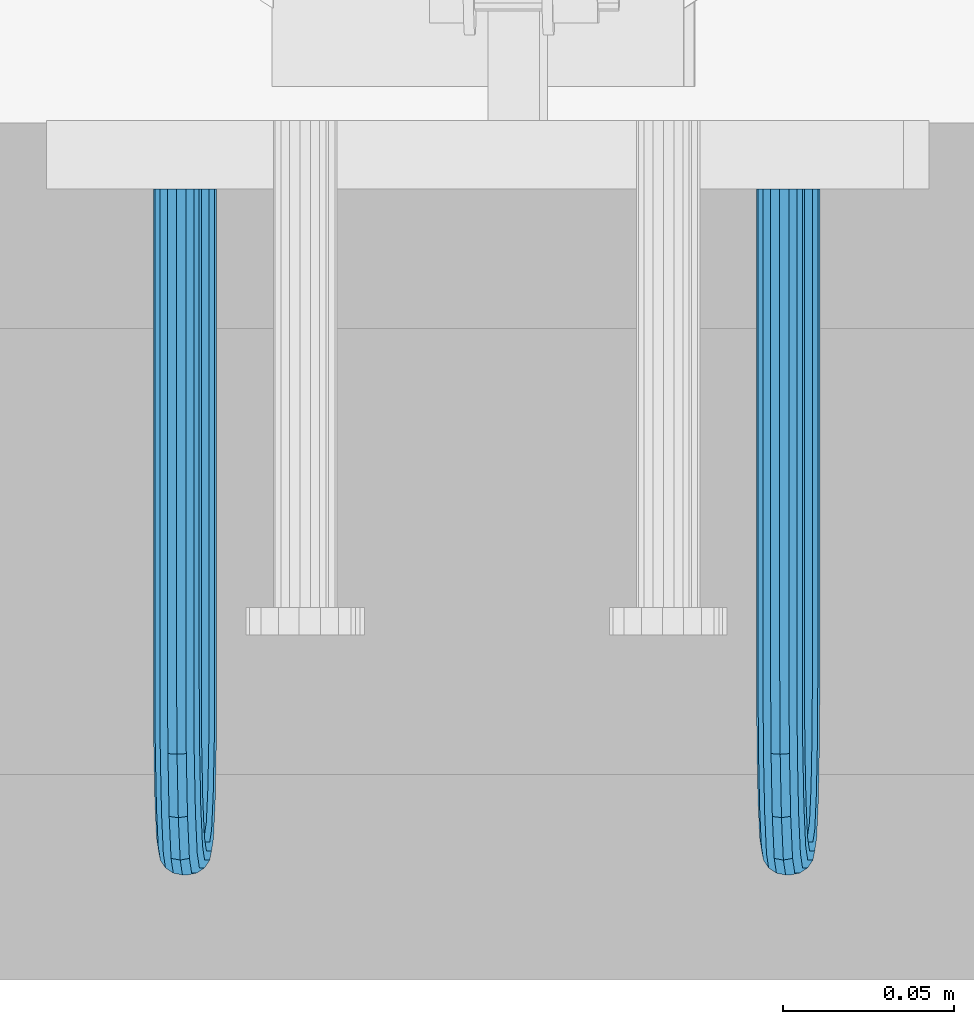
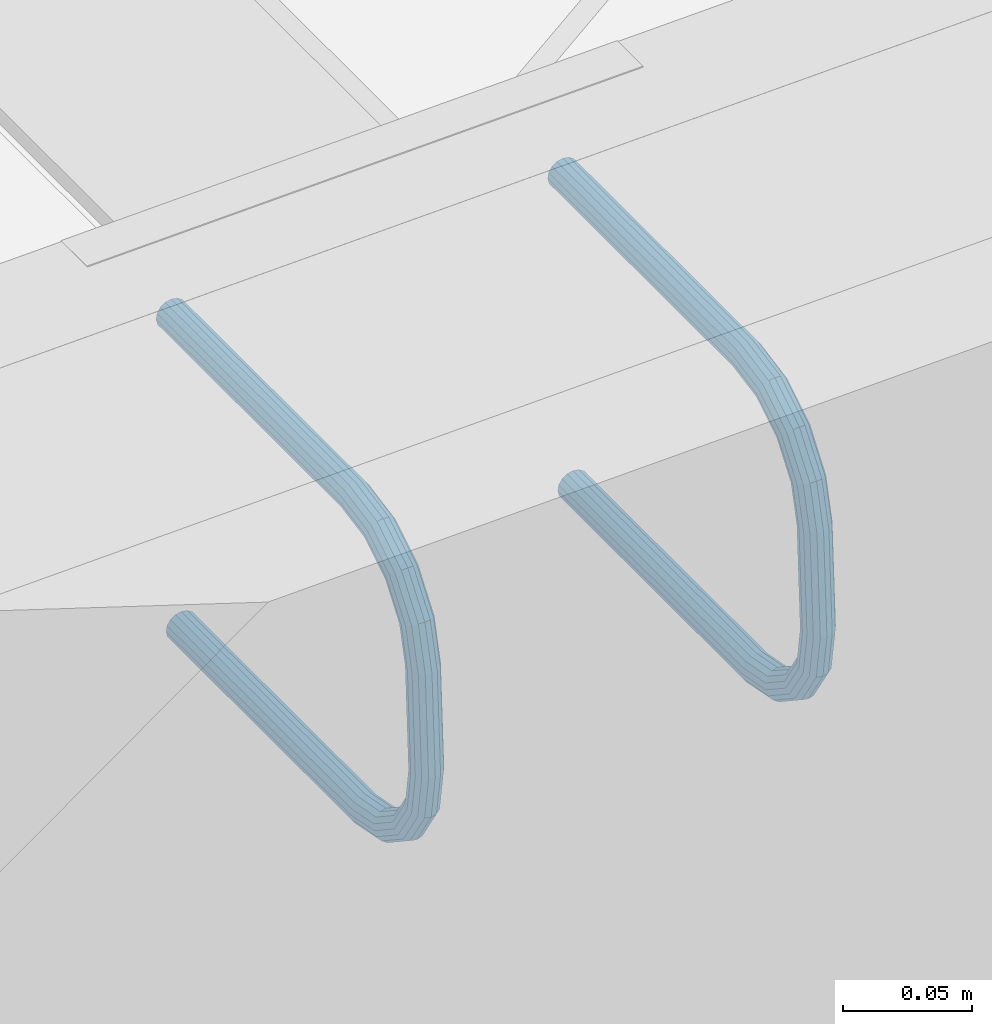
# One storey, part 80 of 476: 2 beams.
"""IFC2X3 building model written with IfcOpenShell, lengths in millimetres."""

from ifc_helpers import new_model, entity, si_unit, converted_unit, origin_with_axes, place, context, project, spatial, faceted_brep, material, element, save


model = new_model("IFC2X3")

# Units and contexts
model_context = context("Model", 3, precision=1e-09, world=origin_with_axes())
ifc_project = project(units=[si_unit("LENGTHUNIT", "METRE", prefix="MILLI"), si_unit("AREAUNIT", "SQUARE_METRE"), si_unit("VOLUMEUNIT", "CUBIC_METRE"), converted_unit("PLANEANGLEUNIT", "DEGREE", entity("IfcPlaneAngleMeasure", 0.01745329), si_unit("PLANEANGLEUNIT", "RADIAN"), dimensions=[0, 0, 0, 0, 0, 0, 0])], contexts=[model_context])

# Site, building, storey
site_placement = place(None, origin_with_axes())
site = spatial("IfcSite", under=ifc_project, at=site_placement, Name="mKR Teilneubau & Sanierung BA1 - Ostfildern", CompositionType="ELEMENT")
building_placement = place(site_placement, origin_with_axes())
building = spatial("IfcBuilding", under=site, at=building_placement, Name="Struktur 1", CompositionType="ELEMENT")
storey_placement = place(building_placement, origin_with_axes())
storey = spatial("IfcBuildingStorey", under=building, at=storey_placement, Name="Default Storey", CompositionType="ELEMENT", Elevation=0.0)

# Beams
ifc_material = material(Name="S235JR")
beam_1_placement = place(None, origin_with_axes())
element("IfcBeam", 1, at=beam_1_placement, inside=storey, material=ifc_material, Name="-", ObjectType="-", context=model_context, shape_type="Brep", body=[
    faceted_brep([(15151.628572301, -23549.67387897, 5302.090800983), (15153.852924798, -23549.67387897, 5303.675749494), (15156.51449208, -23549.67387897, 5304.288828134), (15159.208074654, -23549.67387897, 5303.83670124), (15161.523598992, -23549.67387897, 5302.388201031), (15163.108547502, -23549.67387897, 5300.163848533), (15163.721626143, -23549.67387897, 5297.502281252), (15163.269499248, -23549.67387897, 5294.808698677), (15161.820999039, -23549.67387897, 5292.49317434), (15159.596646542, -23549.67387897, 5290.908225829), (15156.93507926, -23549.67387897, 5290.295147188), (15154.241496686, -23549.67387897, 5290.747274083), (15151.925972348, -23549.67387897, 5292.195774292), (15150.341023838, -23549.67387897, 5294.42012679), (15149.727945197, -23549.67387897, 5297.081694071), (15150.180072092, -23549.67387897, 5299.775276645), (15149.735205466, -23549.67387897, 5440.679569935), (15147.419681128, -23549.67387897, 5442.128070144), (15145.834732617, -23549.67387897, 5444.352422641), (15145.221653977, -23549.67387897, 5447.013989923), (15145.673780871, -23549.67387897, 5449.707572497), (15147.122281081, -23549.67387897, 5452.023096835), (15149.346633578, -23549.67387897, 5453.608045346), (15152.008200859, -23549.67387897, 5454.221123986), (15154.701783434, -23549.67387897, 5453.768997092), (15157.017307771, -23549.67387897, 5452.320496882), (15158.602256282, -23549.67387897, 5450.096144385), (15159.215334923, -23549.67387897, 5447.434577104), (15158.763208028, -23549.67387897, 5444.740994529), (15157.314707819, -23549.67387897, 5442.425470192), (15155.090355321, -23549.67387897, 5440.840521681), (15152.42878804, -23549.67387897, 5440.22744304), (15151.628572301, -23692.67387897, 5302.090800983), (15153.852924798, -23692.67387897, 5303.675749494), (15150.180072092, -23692.67387897, 5299.775276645), (15149.727945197, -23692.67387897, 5297.081694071), (15150.341023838, -23692.67387897, 5294.42012679), (15151.925972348, -23692.67387897, 5292.195774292), (15154.241496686, -23692.67387897, 5290.747274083), (15156.93507926, -23692.67387897, 5290.295147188), (15159.596646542, -23692.67387897, 5290.908225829), (15161.820999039, -23692.67387897, 5292.49317434), (15163.269499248, -23692.67387897, 5294.808698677), (15163.721626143, -23692.67387897, 5297.502281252), (15163.108547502, -23692.67387897, 5300.163848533), (15161.523598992, -23692.67387897, 5302.388201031), (15159.208074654, -23692.67387897, 5303.83670124), (15156.51449208, -23692.67387897, 5304.288828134), (15151.525551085, -23709.913864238, 5305.518499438), (15153.753373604, -23709.333176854, 5306.987994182), (15150.071857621, -23710.782924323, 5303.375763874), (15149.613604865, -23711.808050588, 5300.885999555), (15150.220557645, -23712.833176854, 5298.428250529), (15151.800312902, -23713.702236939, 5296.376686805), (15154.112367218, -23714.282924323, 5295.043640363), (15156.804731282, -23714.486834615, 5294.63205544), (15159.467517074, -23714.282924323, 5295.204592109), (15161.695339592, -23713.702236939, 5296.674086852), (15163.149033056, -23712.833176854, 5298.816822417), (15163.607285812, -23711.808050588, 5301.306586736), (15163.000333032, -23710.782924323, 5303.764335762), (15161.420577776, -23709.913864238, 5305.815899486), (15159.10852346, -23709.333176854, 5307.148945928), (15156.416159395, -23709.129266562, 5307.560530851), (15151.232171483, -23724.52921803, 5315.279758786), (15153.469875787, -23723.456247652, 5316.420469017), (15149.763688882, -23726.135031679, 5313.629084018), (15149.28799115, -23728.02921803, 5311.719744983), (15149.877498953, -23729.92340438, 5309.842421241), (15151.442465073, -23731.52921803, 5308.282918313), (15153.744637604, -23732.602188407, 5307.278656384), (15156.433531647, -23732.978965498, 5306.982525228), (15159.09978746, -23732.602188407, 5307.43960813), (15161.337491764, -23731.52921803, 5308.580318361), (15162.805974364, -23729.92340438, 5310.230993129), (15163.281672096, -23728.02921803, 5312.140332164), (15162.692164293, -23726.135031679, 5314.017655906), (15161.127198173, -23724.52921803, 5315.577158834), (15158.825025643, -23723.456247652, 5316.581420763), (15156.136131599, -23723.079470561, 5316.877551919), (15150.793097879, -23734.294885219, 5329.888515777), (15153.045591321, -23732.892981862, 5330.537165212), (15149.302481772, -23736.392981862, 5328.974262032), (15148.800675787, -23738.867855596, 5327.933590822), (15149.364075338, -23741.34272933, 5326.924934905), (15150.90690795, -23743.440825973, 5326.101853), (15153.194291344, -23744.84272933, 5325.589651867), (15155.877992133, -23745.335012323, 5325.466309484), (15158.5494412, -23744.84272933, 5325.750603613), (15160.801934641, -23743.440825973, 5326.399253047), (15162.292550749, -23741.34272933, 5327.313506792), (15162.794356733, -23738.867855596, 5328.354178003), (15162.230957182, -23736.392981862, 5329.36283392), (15160.68812457, -23734.294885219, 5330.185915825), (15158.400741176, -23732.892981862, 5330.698116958), (15155.717040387, -23732.400698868, 5330.82145934), (15150.275175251, -23737.724131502, 5347.120719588), (15152.545113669, -23736.206722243, 5347.188943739), (15148.758450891, -23739.995094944, 5347.075133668), (15148.225848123, -23742.67387897, 5347.059126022), (15148.758450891, -23745.352662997, 5347.075133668), (15150.275175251, -23747.623626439, 5347.120719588), (15152.545113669, -23749.141035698, 5347.188943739), (15155.222688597, -23749.67387897, 5347.269419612), (15157.900263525, -23749.141035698, 5347.349895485), (15160.170201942, -23747.623626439, 5347.418119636), (15161.686926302, -23745.352662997, 5347.463705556), (15162.21952907, -23742.67387897, 5347.479713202), (15161.686926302, -23739.995094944, 5347.463705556), (15160.170201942, -23737.724131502, 5347.418119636), (15157.900263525, -23736.206722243, 5347.349895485), (15155.222688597, -23735.67387897, 5347.269419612), (15148.773078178, -23737.724131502, 5397.098151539), (15151.043016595, -23736.206722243, 5397.16637569), (15147.256353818, -23739.995094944, 5397.052565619), (15146.72375105, -23742.67387897, 5397.036557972), (15147.256353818, -23745.352662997, 5397.052565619), (15148.773078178, -23747.623626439, 5397.098151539), (15151.043016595, -23749.141035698, 5397.16637569), (15153.720591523, -23749.67387897, 5397.246851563), (15156.398166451, -23749.141035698, 5397.327327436), (15158.668104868, -23747.623626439, 5397.395551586), (15160.184829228, -23745.352662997, 5397.441137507), (15160.717431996, -23742.67387897, 5397.457145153), (15160.184829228, -23739.995094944, 5397.441137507), (15158.668104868, -23737.724131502, 5397.395551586), (15156.398166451, -23736.206722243, 5397.327327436), (15153.720591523, -23735.67387897, 5397.246851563), (15148.255155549, -23734.294885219, 5414.33035535), (15150.542538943, -23732.892981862, 5413.818154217), (15146.712322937, -23736.392981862, 5415.153437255), (15146.148923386, -23738.867855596, 5416.162093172), (15146.650729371, -23741.34272933, 5417.202764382), (15148.141345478, -23743.440825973, 5418.117018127), (15150.393838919, -23744.84272933, 5418.765667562), (15153.065287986, -23745.335012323, 5419.04996169), (15155.748988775, -23744.84272933, 5418.926619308), (15158.036372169, -23743.440825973, 5418.414418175), (15159.579204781, -23741.34272933, 5417.59133627), (15160.142604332, -23738.867855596, 5416.582680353), (15159.640798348, -23736.392981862, 5415.542009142), (15158.15018224, -23734.294885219, 5414.627755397), (15155.897688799, -23732.892981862, 5413.979105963), (15153.226239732, -23732.400698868, 5413.694811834), (15147.816081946, -23724.52921803, 5428.939112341), (15150.118254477, -23723.456247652, 5427.934850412), (15146.251115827, -23726.135031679, 5430.498615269), (15145.661608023, -23728.02921803, 5432.375939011), (15146.137305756, -23729.92340438, 5434.285278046), (15147.605788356, -23731.52921803, 5435.935952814), (15149.84349266, -23732.602188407, 5437.076663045), (15152.509748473, -23732.978965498, 5437.533745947), (15155.198642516, -23732.602188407, 5437.237614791), (15157.500815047, -23731.52921803, 5436.233352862), (15159.065781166, -23729.92340438, 5434.673849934), (15159.65528897, -23728.02921803, 5432.796526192), (15159.179591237, -23726.135031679, 5430.887187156), (15157.711108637, -23724.52921803, 5429.236512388), (15155.473404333, -23723.456247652, 5428.095802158), (15152.80714852, -23723.079470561, 5427.638719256), (15147.522702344, -23709.913864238, 5438.700371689), (15149.83475666, -23709.333176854, 5437.367325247), (15145.942947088, -23710.782924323, 5440.751935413), (15145.335994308, -23711.808050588, 5443.209684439), (15145.794247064, -23712.833176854, 5445.699448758), (15147.247940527, -23713.702236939, 5447.842184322), (15149.475763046, -23714.282924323, 5449.311679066), (15152.138548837, -23714.486834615, 5449.884215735), (15154.830912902, -23714.282924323, 5449.472630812), (15157.142967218, -23713.702236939, 5448.13958437), (15158.722722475, -23712.833176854, 5446.088020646), (15159.329675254, -23711.808050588, 5443.63027162), (15158.871422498, -23710.782924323, 5441.140507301), (15157.417729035, -23709.913864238, 5438.997771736), (15155.189906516, -23709.333176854, 5437.528276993), (15152.527120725, -23709.129266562, 5436.955740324), (15147.419681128, -23692.67387897, 5442.128070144), (15149.735205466, -23692.67387897, 5440.679569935), (15145.834732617, -23692.67387897, 5444.352422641), (15145.221653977, -23692.67387897, 5447.013989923), (15145.673780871, -23692.67387897, 5449.707572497), (15147.122281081, -23692.67387897, 5452.023096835), (15149.346633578, -23692.67387897, 5453.608045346), (15152.008200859, -23692.67387897, 5454.221123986), (15154.701783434, -23692.67387897, 5453.768997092), (15157.017307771, -23692.67387897, 5452.320496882), (15158.602256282, -23692.67387897, 5450.096144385), (15159.215334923, -23692.67387897, 5447.434577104), (15158.763208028, -23692.67387897, 5444.740994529), (15157.314707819, -23692.67387897, 5442.425470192), (15155.090355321, -23692.67387897, 5440.840521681), (15152.42878804, -23692.67387897, 5440.22744304)], [[[0, 1, 2, 3, 4, 5, 6, 7, 8, 9, 10, 11, 12, 13, 14, 15]], [[16, 17, 18, 19, 20, 21, 22, 23, 24, 25, 26, 27, 28, 29, 30, 31]], [[1, 0, 32, 33]], [[0, 15, 34, 32]], [[15, 14, 35, 34]], [[14, 13, 36, 35]], [[13, 12, 37, 36]], [[12, 11, 38, 37]], [[11, 10, 39, 38]], [[10, 9, 40, 39]], [[9, 8, 41, 40]], [[8, 7, 42, 41]], [[7, 6, 43, 42]], [[6, 5, 44, 43]], [[5, 4, 45, 44]], [[4, 3, 46, 45]], [[3, 2, 47, 46]], [[2, 1, 33, 47]], [[33, 32, 48, 49]], [[32, 34, 50, 48]], [[34, 35, 51, 50]], [[35, 36, 52, 51]], [[36, 37, 53, 52]], [[37, 38, 54, 53]], [[38, 39, 55, 54]], [[39, 40, 56, 55]], [[40, 41, 57, 56]], [[41, 42, 58, 57]], [[42, 43, 59, 58]], [[43, 44, 60, 59]], [[44, 45, 61, 60]], [[45, 46, 62, 61]], [[46, 47, 63, 62]], [[47, 33, 49, 63]], [[49, 48, 64, 65]], [[48, 50, 66, 64]], [[50, 51, 67, 66]], [[51, 52, 68, 67]], [[52, 53, 69, 68]], [[53, 54, 70, 69]], [[54, 55, 71, 70]], [[55, 56, 72, 71]], [[56, 57, 73, 72]], [[57, 58, 74, 73]], [[58, 59, 75, 74]], [[59, 60, 76, 75]], [[60, 61, 77, 76]], [[61, 62, 78, 77]], [[62, 63, 79, 78]], [[63, 49, 65, 79]], [[65, 64, 80, 81]], [[64, 66, 82, 80]], [[66, 67, 83, 82]], [[67, 68, 84, 83]], [[68, 69, 85, 84]], [[69, 70, 86, 85]], [[70, 71, 87, 86]], [[71, 72, 88, 87]], [[72, 73, 89, 88]], [[73, 74, 90, 89]], [[74, 75, 91, 90]], [[75, 76, 92, 91]], [[76, 77, 93, 92]], [[77, 78, 94, 93]], [[78, 79, 95, 94]], [[79, 65, 81, 95]], [[81, 80, 96, 97]], [[80, 82, 98, 96]], [[82, 83, 99, 98]], [[83, 84, 100, 99]], [[84, 85, 101, 100]], [[85, 86, 102, 101]], [[86, 87, 103, 102]], [[87, 88, 104, 103]], [[88, 89, 105, 104]], [[89, 90, 106, 105]], [[90, 91, 107, 106]], [[91, 92, 108, 107]], [[92, 93, 109, 108]], [[93, 94, 110, 109]], [[94, 95, 111, 110]], [[95, 81, 97, 111]], [[97, 96, 112, 113]], [[96, 98, 114, 112]], [[98, 99, 115, 114]], [[99, 100, 116, 115]], [[100, 101, 117, 116]], [[101, 102, 118, 117]], [[102, 103, 119, 118]], [[103, 104, 120, 119]], [[104, 105, 121, 120]], [[105, 106, 122, 121]], [[106, 107, 123, 122]], [[107, 108, 124, 123]], [[108, 109, 125, 124]], [[109, 110, 126, 125]], [[110, 111, 127, 126]], [[111, 97, 113, 127]], [[113, 112, 128, 129]], [[112, 114, 130, 128]], [[114, 115, 131, 130]], [[115, 116, 132, 131]], [[116, 117, 133, 132]], [[117, 118, 134, 133]], [[118, 119, 135, 134]], [[119, 120, 136, 135]], [[120, 121, 137, 136]], [[121, 122, 138, 137]], [[122, 123, 139, 138]], [[123, 124, 140, 139]], [[124, 125, 141, 140]], [[125, 126, 142, 141]], [[126, 127, 143, 142]], [[127, 113, 129, 143]], [[129, 128, 144, 145]], [[128, 130, 146, 144]], [[130, 131, 147, 146]], [[131, 132, 148, 147]], [[132, 133, 149, 148]], [[133, 134, 150, 149]], [[134, 135, 151, 150]], [[135, 136, 152, 151]], [[136, 137, 153, 152]], [[137, 138, 154, 153]], [[138, 139, 155, 154]], [[139, 140, 156, 155]], [[140, 141, 157, 156]], [[141, 142, 158, 157]], [[142, 143, 159, 158]], [[143, 129, 145, 159]], [[145, 144, 160, 161]], [[144, 146, 162, 160]], [[146, 147, 163, 162]], [[147, 148, 164, 163]], [[148, 149, 165, 164]], [[149, 150, 166, 165]], [[150, 151, 167, 166]], [[151, 152, 168, 167]], [[152, 153, 169, 168]], [[153, 154, 170, 169]], [[154, 155, 171, 170]], [[155, 156, 172, 171]], [[156, 157, 173, 172]], [[157, 158, 174, 173]], [[158, 159, 175, 174]], [[159, 145, 161, 175]], [[161, 160, 176, 177]], [[160, 162, 178, 176]], [[162, 163, 179, 178]], [[163, 164, 180, 179]], [[164, 165, 181, 180]], [[165, 166, 182, 181]], [[166, 167, 183, 182]], [[167, 168, 184, 183]], [[168, 169, 185, 184]], [[169, 170, 186, 185]], [[170, 171, 187, 186]], [[171, 172, 188, 187]], [[172, 173, 189, 188]], [[173, 174, 190, 189]], [[174, 175, 191, 190]], [[175, 161, 177, 191]], [[177, 176, 17, 16]], [[176, 178, 18, 17]], [[178, 179, 19, 18]], [[179, 180, 20, 19]], [[180, 181, 21, 20]], [[181, 182, 22, 21]], [[182, 183, 23, 22]], [[183, 184, 24, 23]], [[184, 185, 25, 24]], [[185, 186, 26, 25]], [[186, 187, 27, 26]], [[187, 188, 28, 27]], [[188, 189, 29, 28]], [[189, 190, 30, 29]], [[190, 191, 31, 30]], [[191, 177, 16, 31]]]),
])
beam_2_placement = place(None, origin_with_axes())
element("IfcBeam", 2, at=beam_2_placement, inside=storey, material=ifc_material, Name="-", ObjectType="-", context=model_context, shape_type="Brep", body=[
    faceted_brep([(14975.708011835, -23549.67387897, 5296.803419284), (14977.932364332, -23549.67387897, 5298.388367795), (14980.593931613, -23549.67387897, 5299.001446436), (14983.287514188, -23549.67387897, 5298.549319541), (14985.603038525, -23549.67387897, 5297.100819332), (14987.187987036, -23549.67387897, 5294.876466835), (14987.801065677, -23549.67387897, 5292.214899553), (14987.348938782, -23549.67387897, 5289.521316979), (14985.900438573, -23549.67387897, 5287.205792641), (14983.676086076, -23549.67387897, 5285.62084413), (14981.014518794, -23549.67387897, 5285.00776549), (14978.32093622, -23549.67387897, 5285.459892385), (14976.005411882, -23549.67387897, 5286.908392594), (14974.420463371, -23549.67387897, 5289.132745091), (14973.807384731, -23549.67387897, 5291.794312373), (14974.259511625, -23549.67387897, 5294.487894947), (14973.814644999, -23549.67387897, 5435.392188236), (14971.499120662, -23549.67387897, 5436.840688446), (14969.914172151, -23549.67387897, 5439.065040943), (14969.30109351, -23549.67387897, 5441.726608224), (14969.753220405, -23549.67387897, 5444.420190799), (14971.201720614, -23549.67387897, 5446.735715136), (14973.426073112, -23549.67387897, 5448.320663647), (14976.087640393, -23549.67387897, 5448.933742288), (14978.781222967, -23549.67387897, 5448.481615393), (14981.096747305, -23549.67387897, 5447.033115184), (14982.681695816, -23549.67387897, 5444.808762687), (14983.294774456, -23549.67387897, 5442.147195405), (14982.842647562, -23549.67387897, 5439.453612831), (14981.394147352, -23549.67387897, 5437.138088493), (14979.169794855, -23549.67387897, 5435.553139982), (14976.508227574, -23549.67387897, 5434.940061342), (14975.708011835, -23692.67387897, 5296.803419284), (14977.932364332, -23692.67387897, 5298.388367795), (14974.259511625, -23692.67387897, 5294.487894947), (14973.807384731, -23692.67387897, 5291.794312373), (14974.420463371, -23692.67387897, 5289.132745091), (14976.005411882, -23692.67387897, 5286.908392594), (14978.32093622, -23692.67387897, 5285.459892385), (14981.014518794, -23692.67387897, 5285.00776549), (14983.676086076, -23692.67387897, 5285.62084413), (14985.900438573, -23692.67387897, 5287.205792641), (14987.348938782, -23692.67387897, 5289.521316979), (14987.801065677, -23692.67387897, 5292.214899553), (14987.187987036, -23692.67387897, 5294.876466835), (14985.603038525, -23692.67387897, 5297.100819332), (14983.287514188, -23692.67387897, 5298.549319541), (14980.593931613, -23692.67387897, 5299.001446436), (14975.604990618, -23709.913864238, 5300.23111774), (14977.832813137, -23709.333176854, 5301.700612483), (14974.151297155, -23710.782924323, 5298.088382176), (14973.693044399, -23711.808050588, 5295.598617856), (14974.299997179, -23712.833176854, 5293.14086883), (14975.879752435, -23713.702236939, 5291.089305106), (14978.191806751, -23714.282924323, 5289.756258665), (14980.884170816, -23714.486834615, 5289.344673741), (14983.546956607, -23714.282924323, 5289.91721041), (14985.774779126, -23713.702236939, 5291.386705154), (14987.228472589, -23712.833176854, 5293.529440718), (14987.686725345, -23711.808050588, 5296.019205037), (14987.079772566, -23710.782924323, 5298.476954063), (14985.500017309, -23709.913864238, 5300.528517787), (14983.187962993, -23709.333176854, 5301.861564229), (14980.495598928, -23709.129266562, 5302.273149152), (14975.311611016, -23724.52921803, 5309.992377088), (14977.549315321, -23723.456247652, 5311.133087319), (14973.843128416, -23726.135031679, 5308.34170232), (14973.367430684, -23728.02921803, 5306.432363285), (14973.956938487, -23729.92340438, 5304.555039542), (14975.521904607, -23731.52921803, 5302.995536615), (14977.824077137, -23732.602188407, 5301.991274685), (14980.512971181, -23732.978965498, 5301.695143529), (14983.179226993, -23732.602188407, 5302.152226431), (14985.416931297, -23731.52921803, 5303.292936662), (14986.885413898, -23729.92340438, 5304.94361143), (14987.36111163, -23728.02921803, 5306.852950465), (14986.771603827, -23726.135031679, 5308.730274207), (14985.206637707, -23724.52921803, 5310.289777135), (14982.904465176, -23723.456247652, 5311.294039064), (14980.215571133, -23723.079470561, 5311.59017022), (14974.872537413, -23734.294885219, 5324.601134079), (14977.125030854, -23732.892981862, 5325.249783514), (14973.381921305, -23736.392981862, 5323.686880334), (14972.880115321, -23738.867855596, 5322.646209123), (14973.443514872, -23741.34272933, 5321.637553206), (14974.986347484, -23743.440825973, 5320.814471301), (14977.273730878, -23744.84272933, 5320.302270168), (14979.957431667, -23745.335012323, 5320.178927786), (14982.628880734, -23744.84272933, 5320.463221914), (14984.881374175, -23743.440825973, 5321.111871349), (14986.371990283, -23741.34272933, 5322.026125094), (14986.873796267, -23738.867855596, 5323.066796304), (14986.310396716, -23736.392981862, 5324.075452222), (14984.767564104, -23734.294885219, 5324.898534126), (14982.48018071, -23732.892981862, 5325.410735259), (14979.796479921, -23732.400698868, 5325.534077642), (14974.354614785, -23737.724131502, 5341.83333789), (14976.624553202, -23736.206722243, 5341.901562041), (14972.837890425, -23739.995094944, 5341.78775197), (14972.305287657, -23742.67387897, 5341.771744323), (14972.837890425, -23745.352662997, 5341.78775197), (14974.354614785, -23747.623626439, 5341.83333789), (14976.624553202, -23749.141035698, 5341.901562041), (14979.30212813, -23749.67387897, 5341.982037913), (14981.979703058, -23749.141035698, 5342.062513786), (14984.249641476, -23747.623626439, 5342.130737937), (14985.766365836, -23745.352662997, 5342.176323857), (14986.298968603, -23742.67387897, 5342.192331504), (14985.766365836, -23739.995094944, 5342.176323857), (14984.249641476, -23737.724131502, 5342.130737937), (14981.979703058, -23736.206722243, 5342.062513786), (14979.30212813, -23735.67387897, 5341.982037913), (14972.852517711, -23737.724131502, 5391.81076984), (14975.122456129, -23736.206722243, 5391.878993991), (14971.335793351, -23739.995094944, 5391.76518392), (14970.803190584, -23742.67387897, 5391.749176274), (14971.335793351, -23745.352662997, 5391.76518392), (14972.852517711, -23747.623626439, 5391.81076984), (14975.122456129, -23749.141035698, 5391.878993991), (14977.800031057, -23749.67387897, 5391.959469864), (14980.477605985, -23749.141035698, 5392.039945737), (14982.747544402, -23747.623626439, 5392.108169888), (14984.264268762, -23745.352662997, 5392.153755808), (14984.79687153, -23742.67387897, 5392.169763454), (14984.264268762, -23739.995094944, 5392.153755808), (14982.747544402, -23737.724131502, 5392.108169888), (14980.477605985, -23736.206722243, 5392.039945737), (14977.800031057, -23735.67387897, 5391.959469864), (14972.334595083, -23734.294885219, 5409.042973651), (14974.621978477, -23732.892981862, 5408.530772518), (14970.791762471, -23736.392981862, 5409.866055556), (14970.22836292, -23738.867855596, 5410.874711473), (14970.730168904, -23741.34272933, 5411.915382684), (14972.220785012, -23743.440825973, 5412.829636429), (14974.473278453, -23744.84272933, 5413.478285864), (14977.14472752, -23745.335012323, 5413.762579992), (14979.828428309, -23744.84272933, 5413.639237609), (14982.115811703, -23743.440825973, 5413.127036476), (14983.658644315, -23741.34272933, 5412.303954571), (14984.222043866, -23738.867855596, 5411.295298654), (14983.720237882, -23736.392981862, 5410.254627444), (14982.229621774, -23734.294885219, 5409.340373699), (14979.977128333, -23732.892981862, 5408.691724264), (14977.305679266, -23732.400698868, 5408.407430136), (14971.89552148, -23724.52921803, 5423.651730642), (14974.197694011, -23723.456247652, 5422.647468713), (14970.33055536, -23726.135031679, 5425.21123357), (14969.741047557, -23728.02921803, 5427.088557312), (14970.216745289, -23729.92340438, 5428.997896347), (14971.68522789, -23731.52921803, 5430.648571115), (14973.922932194, -23732.602188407, 5431.789281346), (14976.589188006, -23732.978965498, 5432.246364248), (14979.27808205, -23732.602188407, 5431.950233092), (14981.58025458, -23731.52921803, 5430.945971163), (14983.1452207, -23729.92340438, 5429.386468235), (14983.734728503, -23728.02921803, 5427.509144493), (14983.259030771, -23726.135031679, 5425.599805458), (14981.790548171, -23724.52921803, 5423.94913069), (14979.552843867, -23723.456247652, 5422.808420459), (14976.886588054, -23723.079470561, 5422.351337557), (14971.602141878, -23709.913864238, 5433.41298999), (14973.914196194, -23709.333176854, 5432.079943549), (14970.022386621, -23710.782924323, 5435.464553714), (14969.415433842, -23711.808050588, 5437.92230274), (14969.873686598, -23712.833176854, 5440.41206706), (14971.327380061, -23713.702236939, 5442.554802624), (14973.55520258, -23714.282924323, 5444.024297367), (14976.217988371, -23714.486834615, 5444.596834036), (14978.910352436, -23714.282924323, 5444.185249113), (14981.222406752, -23713.702236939, 5442.852202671), (14982.802162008, -23712.833176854, 5440.800638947), (14983.409114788, -23711.808050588, 5438.342889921), (14982.950862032, -23710.782924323, 5435.853125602), (14981.497168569, -23709.913864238, 5433.710390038), (14979.26934605, -23709.333176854, 5432.240895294), (14976.606560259, -23709.129266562, 5431.668358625), (14971.499120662, -23692.67387897, 5436.840688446), (14973.814644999, -23692.67387897, 5435.392188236), (14969.914172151, -23692.67387897, 5439.065040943), (14969.30109351, -23692.67387897, 5441.726608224), (14969.753220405, -23692.67387897, 5444.420190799), (14971.201720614, -23692.67387897, 5446.735715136), (14973.426073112, -23692.67387897, 5448.320663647), (14976.087640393, -23692.67387897, 5448.933742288), (14978.781222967, -23692.67387897, 5448.481615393), (14981.096747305, -23692.67387897, 5447.033115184), (14982.681695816, -23692.67387897, 5444.808762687), (14983.294774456, -23692.67387897, 5442.147195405), (14982.842647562, -23692.67387897, 5439.453612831), (14981.394147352, -23692.67387897, 5437.138088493), (14979.169794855, -23692.67387897, 5435.553139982), (14976.508227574, -23692.67387897, 5434.940061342)], [[[0, 1, 2, 3, 4, 5, 6, 7, 8, 9, 10, 11, 12, 13, 14, 15]], [[16, 17, 18, 19, 20, 21, 22, 23, 24, 25, 26, 27, 28, 29, 30, 31]], [[1, 0, 32, 33]], [[0, 15, 34, 32]], [[15, 14, 35, 34]], [[14, 13, 36, 35]], [[13, 12, 37, 36]], [[12, 11, 38, 37]], [[11, 10, 39, 38]], [[10, 9, 40, 39]], [[9, 8, 41, 40]], [[8, 7, 42, 41]], [[7, 6, 43, 42]], [[6, 5, 44, 43]], [[5, 4, 45, 44]], [[4, 3, 46, 45]], [[3, 2, 47, 46]], [[2, 1, 33, 47]], [[33, 32, 48, 49]], [[32, 34, 50, 48]], [[34, 35, 51, 50]], [[35, 36, 52, 51]], [[36, 37, 53, 52]], [[37, 38, 54, 53]], [[38, 39, 55, 54]], [[39, 40, 56, 55]], [[40, 41, 57, 56]], [[41, 42, 58, 57]], [[42, 43, 59, 58]], [[43, 44, 60, 59]], [[44, 45, 61, 60]], [[45, 46, 62, 61]], [[46, 47, 63, 62]], [[47, 33, 49, 63]], [[49, 48, 64, 65]], [[48, 50, 66, 64]], [[50, 51, 67, 66]], [[51, 52, 68, 67]], [[52, 53, 69, 68]], [[53, 54, 70, 69]], [[54, 55, 71, 70]], [[55, 56, 72, 71]], [[56, 57, 73, 72]], [[57, 58, 74, 73]], [[58, 59, 75, 74]], [[59, 60, 76, 75]], [[60, 61, 77, 76]], [[61, 62, 78, 77]], [[62, 63, 79, 78]], [[63, 49, 65, 79]], [[65, 64, 80, 81]], [[64, 66, 82, 80]], [[66, 67, 83, 82]], [[67, 68, 84, 83]], [[68, 69, 85, 84]], [[69, 70, 86, 85]], [[70, 71, 87, 86]], [[71, 72, 88, 87]], [[72, 73, 89, 88]], [[73, 74, 90, 89]], [[74, 75, 91, 90]], [[75, 76, 92, 91]], [[76, 77, 93, 92]], [[77, 78, 94, 93]], [[78, 79, 95, 94]], [[79, 65, 81, 95]], [[81, 80, 96, 97]], [[80, 82, 98, 96]], [[82, 83, 99, 98]], [[83, 84, 100, 99]], [[84, 85, 101, 100]], [[85, 86, 102, 101]], [[86, 87, 103, 102]], [[87, 88, 104, 103]], [[88, 89, 105, 104]], [[89, 90, 106, 105]], [[90, 91, 107, 106]], [[91, 92, 108, 107]], [[92, 93, 109, 108]], [[93, 94, 110, 109]], [[94, 95, 111, 110]], [[95, 81, 97, 111]], [[97, 96, 112, 113]], [[96, 98, 114, 112]], [[98, 99, 115, 114]], [[99, 100, 116, 115]], [[100, 101, 117, 116]], [[101, 102, 118, 117]], [[102, 103, 119, 118]], [[103, 104, 120, 119]], [[104, 105, 121, 120]], [[105, 106, 122, 121]], [[106, 107, 123, 122]], [[107, 108, 124, 123]], [[108, 109, 125, 124]], [[109, 110, 126, 125]], [[110, 111, 127, 126]], [[111, 97, 113, 127]], [[113, 112, 128, 129]], [[112, 114, 130, 128]], [[114, 115, 131, 130]], [[115, 116, 132, 131]], [[116, 117, 133, 132]], [[117, 118, 134, 133]], [[118, 119, 135, 134]], [[119, 120, 136, 135]], [[120, 121, 137, 136]], [[121, 122, 138, 137]], [[122, 123, 139, 138]], [[123, 124, 140, 139]], [[124, 125, 141, 140]], [[125, 126, 142, 141]], [[126, 127, 143, 142]], [[127, 113, 129, 143]], [[129, 128, 144, 145]], [[128, 130, 146, 144]], [[130, 131, 147, 146]], [[131, 132, 148, 147]], [[132, 133, 149, 148]], [[133, 134, 150, 149]], [[134, 135, 151, 150]], [[135, 136, 152, 151]], [[136, 137, 153, 152]], [[137, 138, 154, 153]], [[138, 139, 155, 154]], [[139, 140, 156, 155]], [[140, 141, 157, 156]], [[141, 142, 158, 157]], [[142, 143, 159, 158]], [[143, 129, 145, 159]], [[145, 144, 160, 161]], [[144, 146, 162, 160]], [[146, 147, 163, 162]], [[147, 148, 164, 163]], [[148, 149, 165, 164]], [[149, 150, 166, 165]], [[150, 151, 167, 166]], [[151, 152, 168, 167]], [[152, 153, 169, 168]], [[153, 154, 170, 169]], [[154, 155, 171, 170]], [[155, 156, 172, 171]], [[156, 157, 173, 172]], [[157, 158, 174, 173]], [[158, 159, 175, 174]], [[159, 145, 161, 175]], [[161, 160, 176, 177]], [[160, 162, 178, 176]], [[162, 163, 179, 178]], [[163, 164, 180, 179]], [[164, 165, 181, 180]], [[165, 166, 182, 181]], [[166, 167, 183, 182]], [[167, 168, 184, 183]], [[168, 169, 185, 184]], [[169, 170, 186, 185]], [[170, 171, 187, 186]], [[171, 172, 188, 187]], [[172, 173, 189, 188]], [[173, 174, 190, 189]], [[174, 175, 191, 190]], [[175, 161, 177, 191]], [[177, 176, 17, 16]], [[176, 178, 18, 17]], [[178, 179, 19, 18]], [[179, 180, 20, 19]], [[180, 181, 21, 20]], [[181, 182, 22, 21]], [[182, 183, 23, 22]], [[183, 184, 24, 23]], [[184, 185, 25, 24]], [[185, 186, 26, 25]], [[186, 187, 27, 26]], [[187, 188, 28, 27]], [[188, 189, 29, 28]], [[189, 190, 30, 29]], [[190, 191, 31, 30]], [[191, 177, 16, 31]]]),
])

save(model, "model.ifc")
